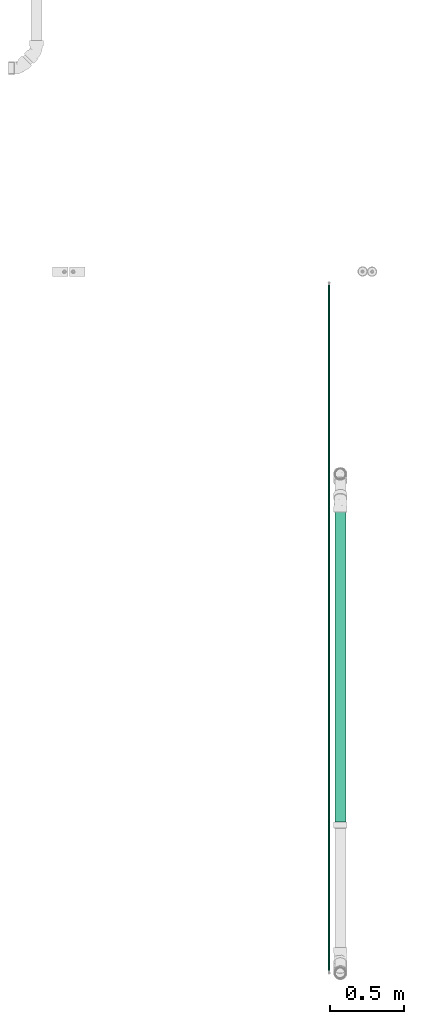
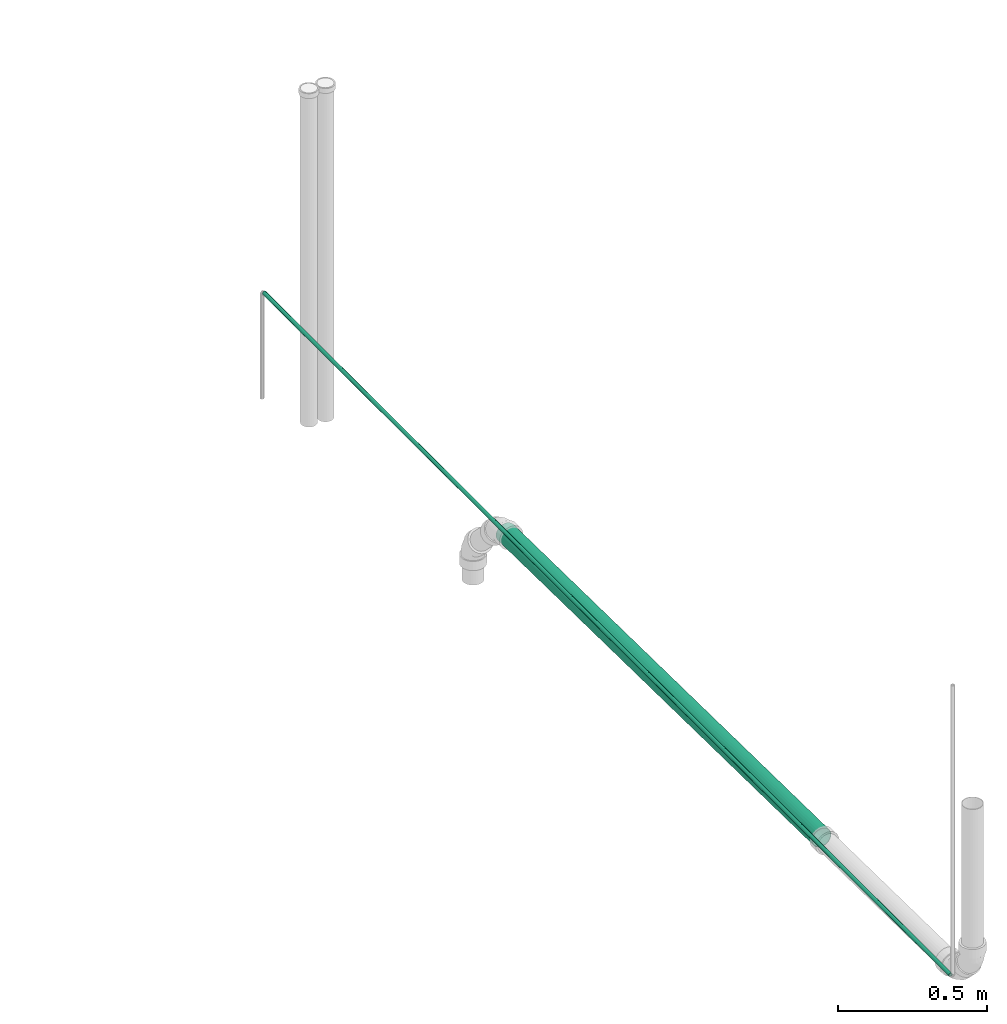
# One storey, part 3 of 18: 2 flow segments.
"""IFC2X3 building model written with IfcOpenShell, lengths in millimetres."""

from ifc_helpers import new_model, entity, si_unit, converted_unit, derived_unit, direction, frame, origin_with_axes, origin_2d_with_axis, place, context, subcontext, project, spatial, hollow_circle, extrude, source, transform, mapped, type_object, element, save


model = new_model("IFC2X3")

# Units and contexts
model_context = context("Model", 3, precision=0.01, world=frame((0.0, 4.29681676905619e-09, 0.0)), true_north=direction((4.01073788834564e-13, 1.0)))
plan_context = context("Plan", 3, precision=0.01, world=frame((0.0, 4.29681676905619e-09, 0.0)), true_north=direction((4.01073788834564e-13, 1.0)))
body_context = subcontext(model_context, "Body", "Model", "MODEL_VIEW")
ifc_project = project(units=[converted_unit("PLANEANGLEUNIT", "DEGREE", entity("IfcPositiveLengthMeasure", 0.0174532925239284), si_unit("PLANEANGLEUNIT", "RADIAN"), dimensions=[0, 0, 0, 0, 0, 0, 0]), si_unit("AREAUNIT", "SQUARE_METRE"), si_unit("LENGTHUNIT", "METRE", prefix="MILLI"), si_unit("MASSUNIT", "GRAM", prefix="KILO"), si_unit("POWERUNIT", "WATT"), si_unit("PRESSUREUNIT", "PASCAL", prefix="KILO"), si_unit("FORCEUNIT", "NEWTON", prefix="KILO"), si_unit("ELECTRICVOLTAGEUNIT", "VOLT"), si_unit("ELECTRICCURRENTUNIT", "AMPERE"), si_unit("THERMODYNAMICTEMPERATUREUNIT", "DEGREE_CELSIUS"), si_unit("TIMEUNIT", "SECOND"), si_unit("VOLUMEUNIT", "CUBIC_METRE"), derived_unit("LINEARVELOCITYUNIT", [(si_unit("LENGTHUNIT", "METRE"), 1), (si_unit("TIMEUNIT", "SECOND"), -1)]), derived_unit("VOLUMETRICFLOWRATEUNIT", [(si_unit("VOLUMEUNIT", "CUBIC_METRE"), 1), (si_unit("TIMEUNIT", "SECOND"), -1)]), derived_unit("THERMALTRANSMITTANCEUNIT", [(si_unit("POWERUNIT", "WATT"), 1), (si_unit("THERMODYNAMICTEMPERATUREUNIT", "KELVIN"), -1), (si_unit("AREAUNIT", "SQUARE_METRE"), -1)]), derived_unit("SOUNDPRESSUREUNIT", [(si_unit("PRESSUREUNIT", "PASCAL"), 1)])], contexts=[model_context, plan_context])

# Site, building, storey
site_placement = place(None, frame((0.0, -4.29681676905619e-09, 0.0), z_axis=(0.0, 0.0, 1.0), x_axis=(1.0, 0.0, 0.0)))
site = spatial("IfcSite", under=ifc_project, at=site_placement, Name="ENGM", CompositionType="ELEMENT")
building_placement = place(site_placement, frame((0.0, 4.29681676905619e-09, 0.0), z_axis=(0.0, 0.0, 1.0), x_axis=(1.0, 0.0, 0.0)))
building = spatial("IfcBuilding", under=site, at=building_placement, Name="TI", CompositionType="ELEMENT")
storey_placement = place(building_placement, frame((0.0, 0.0, 204000.0), z_axis=(0.0, 0.0, 1.0), x_axis=(1.0, 0.0, 0.0)))
storey = spatial("IfcBuildingStorey", under=building, at=storey_placement, Name="Nivå D", CompositionType="ELEMENT", Elevation=204000.0)

# Flow segments
pipe_segment_type_1 = type_object("IfcPipeSegmentType", Name="Kobberrør", PredefinedType="RIGIDSEGMENT")
shared_shape_1 = source(origin_with_axes(), body_context, "Body", "SweptSolid", [
    extrude(hollow_circle(Radius=7.5, WallThickness=2.0, at=origin_2d_with_axis()), frame((0.0, 0.0, 0.0), z_axis=(1.0, 0.0, 0.0), x_axis=(0.0, 1.0, 0.0)), (0.0, 0.0, 1.0), 4610.0),
])
flow_segment_1_placement = place(storey_placement, frame((592944.82673, 574907.17632, 6340.0), z_axis=(0.0, 0.0, 1.0), x_axis=(0.0, -1.0, 0.0)))
element("IfcFlowSegment", 1, at=flow_segment_1_placement, inside=storey, type_object=pipe_segment_type_1, Name="Kobberrør", context=body_context, shape_type="MappedRepresentation", body=[
    mapped(shared_shape_1, transform((0.0, 0.0, 0.0), scale=1.0)),
])
pipe_segment_type_2 = type_object("IfcPipeSegmentType", Name="MA", PredefinedType="RIGIDSEGMENT")
shared_shape_2 = source(origin_with_axes(), body_context, "Body", "SweptSolid", [
    extrude(hollow_circle(Radius=37.5, WallThickness=2.0, at=origin_2d_with_axis()), frame((0.0, 0.0, 0.0), z_axis=(1.0, 0.0, 0.0), x_axis=(0.0, 1.0, 0.0)), (0.0, 0.0, 1.0), 2122.2),
])
flow_segment_2_placement = place(storey_placement, frame((593020.37788, 573416.99377, 6235.61447), z_axis=(-3.30872245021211e-24, 0.0166640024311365, 0.999861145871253), x_axis=(1.00000011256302e-06, -0.999861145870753, 0.0166640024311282)))
element("IfcFlowSegment", 2, at=flow_segment_2_placement, inside=storey, type_object=pipe_segment_type_2, Name="MA", context=body_context, shape_type="MappedRepresentation", body=[
    mapped(shared_shape_2, transform((0.0, 0.0, 0.0), scale=1.0)),
])

save(model, "model.ifc")
